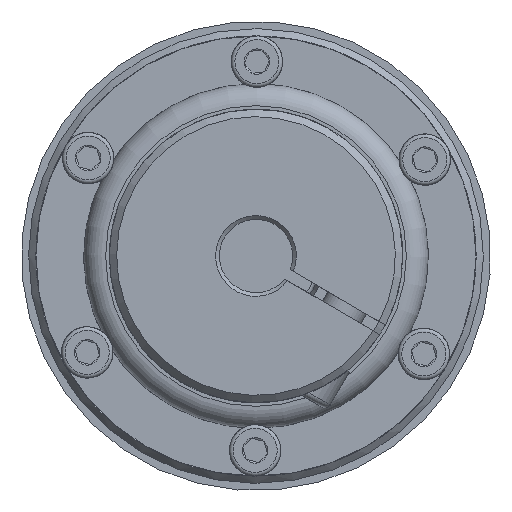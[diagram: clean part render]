
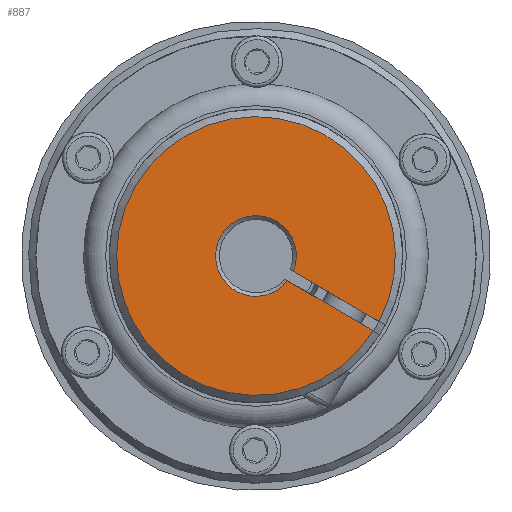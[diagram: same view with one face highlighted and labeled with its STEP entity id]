
A CAD part, left-side view. The second image highlights one B-rep face of the part: STEP entity #887.
In plain terms, the highlighted planar face has unit normal (-1, 0, 0) as drawn and (0, 0, -1) by its records, which use the part's own axes.
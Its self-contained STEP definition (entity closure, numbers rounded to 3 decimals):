
#887 = ADVANCED_FACE( '', ( #1841 ), #1842, .T. );
#1841 = FACE_OUTER_BOUND( '', #3151, .T. );
#1842 = PLANE( '', #3152 );
#3151 = EDGE_LOOP( '', ( #4349, #4350, #4351, #4352 ) );
#3152 = AXIS2_PLACEMENT_3D( '', #4353, #4354, #4355 );
#4349 = ORIENTED_EDGE( '', *, *, #6835, .T. );
#4350 = ORIENTED_EDGE( '', *, *, #6836, .T. );
#4351 = ORIENTED_EDGE( '', *, *, #6837, .F. );
#4352 = ORIENTED_EDGE( '', *, *, #6838, .T. );
#4353 = CARTESIAN_POINT( '', ( 0., 0., 0. ) );
#4354 = DIRECTION( '', ( 0., 0., -1. ) );
#4355 = DIRECTION( '', ( -1., 0., 0. ) );
#6835 = EDGE_CURVE( '', #7803, #7804, #7805, .T. );
#6836 = EDGE_CURVE( '', #7804, #7806, #7807, .F. );
#6837 = EDGE_CURVE( '', #7808, #7806, #7809, .T. );
#6838 = EDGE_CURVE( '', #7808, #7803, #7810, .T. );
#7803 = VERTEX_POINT( '', #9197 );
#7804 = VERTEX_POINT( '', #9198 );
#7805 = LINE( '', #9199, #9200 );
#7806 = VERTEX_POINT( '', #9201 );
#7807 = CIRCLE( '', #9202, 5.5 );
#7808 = VERTEX_POINT( '', #9203 );
#7809 = LINE( '', #9204, #9205 );
#7810 = CIRCLE( '', #9206, 19. );
#9197 = CARTESIAN_POINT( '', ( -18.985, -0.75, 0. ) );
#9198 = CARTESIAN_POINT( '', ( -5.449, -0.75, 0. ) );
#9199 = CARTESIAN_POINT( '', ( -20., -0.75, 0. ) );
#9200 = VECTOR( '', #11529, 1000. );
#9201 = CARTESIAN_POINT( '', ( -5.449, 0.75, 0. ) );
#9202 = AXIS2_PLACEMENT_3D( '', #11530, #11531, #11532 );
#9203 = CARTESIAN_POINT( '', ( -18.985, 0.75, 0. ) );
#9204 = CARTESIAN_POINT( '', ( -20., 0.75, 0. ) );
#9205 = VECTOR( '', #11533, 1000. );
#9206 = AXIS2_PLACEMENT_3D( '', #11534, #11535, #11536 );
#11529 = DIRECTION( '', ( 1., 0., 0. ) );
#11530 = CARTESIAN_POINT( '', ( 0., 0., 0. ) );
#11531 = DIRECTION( '', ( 0., 0., -1. ) );
#11532 = DIRECTION( '', ( -1., 0., 0. ) );
#11533 = DIRECTION( '', ( 1., 0., 0. ) );
#11534 = CARTESIAN_POINT( '', ( 0., 0., 0. ) );
#11535 = DIRECTION( '', ( 0., 0., -1. ) );
#11536 = DIRECTION( '', ( -1., 0., 0. ) );
